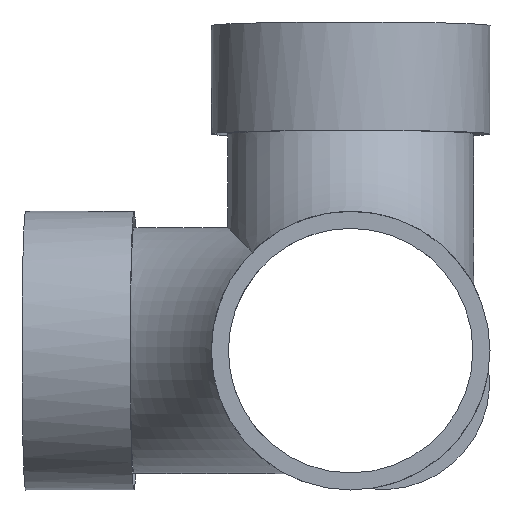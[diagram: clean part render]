
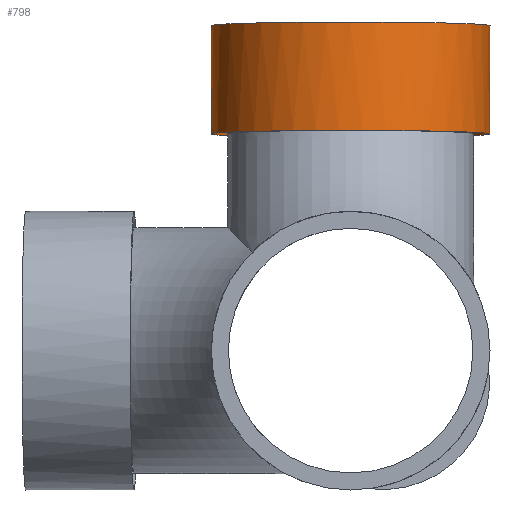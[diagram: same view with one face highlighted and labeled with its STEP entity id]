
A CAD part, front view. The second image highlights one B-rep face of the part: STEP entity #798.
In plain terms, the highlighted cylindrical face has radius 45 mm (diameter 90 mm), a full revolution.
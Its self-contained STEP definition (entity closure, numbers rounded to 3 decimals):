
#111=CYLINDRICAL_SURFACE($,#907,45.);
#143=FACE_BOUND($,#276,.T.);
#202=FACE_OUTER_BOUND($,#275,.T.);
#275=EDGE_LOOP($,(#669));
#276=EDGE_LOOP($,(#670));
#350=CIRCLE($,#908,45.);
#351=CIRCLE($,#909,45.);
#417=VERTEX_POINT($,#1762);
#418=VERTEX_POINT($,#1764);
#507=EDGE_CURVE($,#417,#417,#350,.T.);
#508=EDGE_CURVE($,#418,#418,#351,.T.);
#669=ORIENTED_EDGE($,*,*,#507,.T.);
#670=ORIENTED_EDGE($,*,*,#508,.F.);
#798=ADVANCED_FACE($,(#202,#143),#111,.T.);
#907=AXIS2_PLACEMENT_3D($,#1761,#1136,#1137);
#908=AXIS2_PLACEMENT_3D($,#1763,#1138,#1139);
#909=AXIS2_PLACEMENT_3D($,#1765,#1140,#1141);
#1136=DIRECTION('center_axis',(0.,-0.026,
-1.));
#1137=DIRECTION('ref_axis',(0.,-1.,0.026));
#1138=DIRECTION('center_axis',(0.,0.026,
1.));
#1139=DIRECTION('ref_axis',(0.,-1.,0.026));
#1140=DIRECTION('center_axis',(0.,0.026,
1.));
#1141=DIRECTION('ref_axis',(0.,-1.,0.026));
#1761=CARTESIAN_POINT('Origin',(0.,122.749,
104.964));
#1762=CARTESIAN_POINT('',(0.,166.817,68.798));
#1763=CARTESIAN_POINT('Origin',(0.,121.832,
69.976));
#1764=CARTESIAN_POINT('',(0.,167.733,103.786));
#1765=CARTESIAN_POINT('Origin',(0.,122.749,
104.964));
